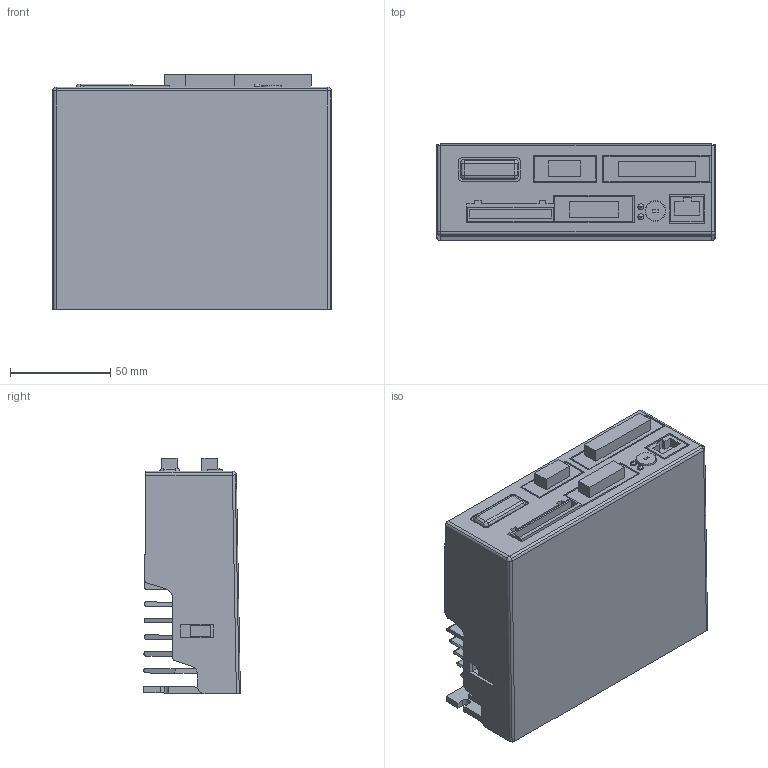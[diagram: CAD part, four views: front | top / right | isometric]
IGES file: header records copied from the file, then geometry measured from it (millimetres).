
Start section:  PTC IGES file: cu_smd-7622-7623.igs
Global section: file name: cu_smd-7622-7623.igs; native system: Creo Parametric by Parametric Technology Corporation; preprocessor: 2014000; author: jbuhisan; organization: Unknown; date: 20140801.144626; units: centimetre
Bounding box: 139 x 48.27 x 117.25 mm (x, y, z)
Surface area: 101745 mm2 (no closed solid volume)
Topology: 0 solids, 0 shells, 272 faces, 1432 edges, 1426 vertices
Faces by surface type: bspline 179, revolution 93
